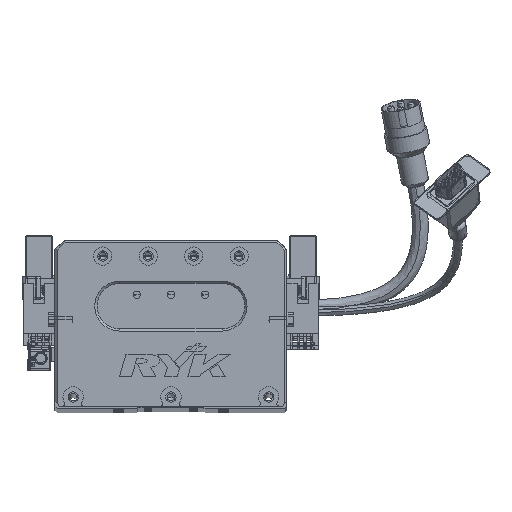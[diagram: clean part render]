
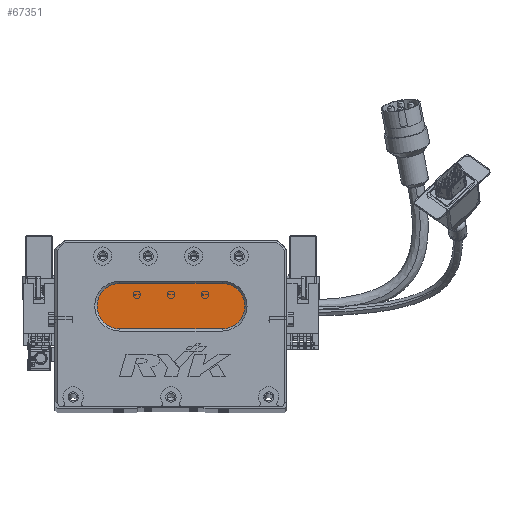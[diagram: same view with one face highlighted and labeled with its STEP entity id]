
A CAD part, top view. The second image highlights one B-rep face of the part: STEP entity #67351.
In plain terms, the highlighted planar face has unit normal (0, 0, 1) as drawn and (0, 0, -1) by its records, which use the part's own axes.
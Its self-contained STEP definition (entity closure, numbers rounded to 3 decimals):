
#1288 = VERTEX_POINT ( 'NONE', #10709 ) ;
#1785 = VECTOR ( 'NONE', #22577, 1000. ) ;
#4147 = DIRECTION ( 'NONE',  ( 0., 0., -1. ) ) ;
#7171 = DIRECTION ( 'NONE',  ( -1., 0., 0. ) ) ;
#8489 = CARTESIAN_POINT ( 'NONE',  ( 28.5, 54., 13. ) ) ;
#9854 = EDGE_CURVE ( 'NONE', #60586, #63185, #58509, .T. ) ;
#10709 = CARTESIAN_POINT ( 'NONE',  ( 73.5, 34., 13. ) ) ;
#11580 = ORIENTED_EDGE ( 'NONE', *, *, #42984, .T. ) ;
#13564 = DIRECTION ( 'NONE',  ( 0., 0., -1. ) ) ;
#17076 = CARTESIAN_POINT ( 'NONE',  ( 73.5, 54., 13. ) ) ;
#17824 = ORIENTED_EDGE ( 'NONE', *, *, #68109, .T. ) ;
#17934 = CARTESIAN_POINT ( 'NONE',  ( 28.5, 34., 13. ) ) ;
#18096 = CIRCLE ( 'NONE', #69130, 10. ) ;
#20342 = ORIENTED_EDGE ( 'NONE', *, *, #9854, .T. ) ;
#21984 = VECTOR ( 'NONE', #35845, 1000. ) ;
#22577 = DIRECTION ( 'NONE',  ( -1., 0., 0. ) ) ;
#23125 = EDGE_CURVE ( 'NONE', #63185, #45737, #62386, .T. ) ;
#24782 = CARTESIAN_POINT ( 'NONE',  ( 73.5, 54., 13. ) ) ;
#25957 = CARTESIAN_POINT ( 'NONE',  ( 73.5, 34., 13. ) ) ;
#30045 = PLANE ( 'NONE',  #57177 ) ;
#31458 = AXIS2_PLACEMENT_3D ( 'NONE', #32784, #4147, #42845 ) ;
#32784 = CARTESIAN_POINT ( 'NONE',  ( 28.5, 44., 13. ) ) ;
#33369 = CIRCLE ( 'NONE', #63187, 10. ) ;
#33635 = CARTESIAN_POINT ( 'NONE',  ( 73.5, 44., 13. ) ) ;
#34569 = DIRECTION ( 'NONE',  ( -1., 0., 0. ) ) ;
#35845 = DIRECTION ( 'NONE',  ( 1., 0., 0. ) ) ;
#41062 = CARTESIAN_POINT ( 'NONE',  ( 73.5, 44., 13. ) ) ;
#41207 = CARTESIAN_POINT ( 'NONE',  ( 28.5, 44., 13. ) ) ;
#42845 = DIRECTION ( 'NONE',  ( -1., 0., 0. ) ) ;
#42881 = EDGE_CURVE ( 'NONE', #1288, #61159, #58574, .T. ) ;
#42984 = EDGE_CURVE ( 'NONE', #45737, #1288, #18096, .T. ) ;
#45737 = VERTEX_POINT ( 'NONE', #17076 ) ;
#48992 = ORIENTED_EDGE ( 'NONE', *, *, #23125, .T. ) ;
#56171 = DIRECTION ( 'NONE',  ( 0., 0., -1. ) ) ;
#57177 = AXIS2_PLACEMENT_3D ( 'NONE', #41062, #67539, #7171 ) ;
#57243 = ORIENTED_EDGE ( 'NONE', *, *, #42881, .T. ) ;
#58285 = FACE_OUTER_BOUND ( 'NONE', #67962, .T. ) ;
#58509 = CIRCLE ( 'NONE', #31458, 10. ) ;
#58574 = LINE ( 'NONE', #25957, #1785 ) ;
#60586 = VERTEX_POINT ( 'NONE', #67187 ) ;
#61159 = VERTEX_POINT ( 'NONE', #17934 ) ;
#62386 = LINE ( 'NONE', #24782, #21984 ) ;
#63088 = DIRECTION ( 'NONE',  ( -1., 0., 0. ) ) ;
#63185 = VERTEX_POINT ( 'NONE', #8489 ) ;
#63187 = AXIS2_PLACEMENT_3D ( 'NONE', #41207, #13564, #63088 ) ;
#67187 = CARTESIAN_POINT ( 'NONE',  ( 18.5, 44., 13. ) ) ;
#67351 = ADVANCED_FACE ( 'NONE', ( #58285 ), #30045, .T. ) ;
#67539 = DIRECTION ( 'NONE',  ( 0., 0., -1. ) ) ;
#67962 = EDGE_LOOP ( 'NONE', ( #11580, #57243, #17824, #20342, #48992 ) ) ;
#68109 = EDGE_CURVE ( 'NONE', #61159, #60586, #33369, .T. ) ;
#69130 = AXIS2_PLACEMENT_3D ( 'NONE', #33635, #56171, #34569 ) ;
